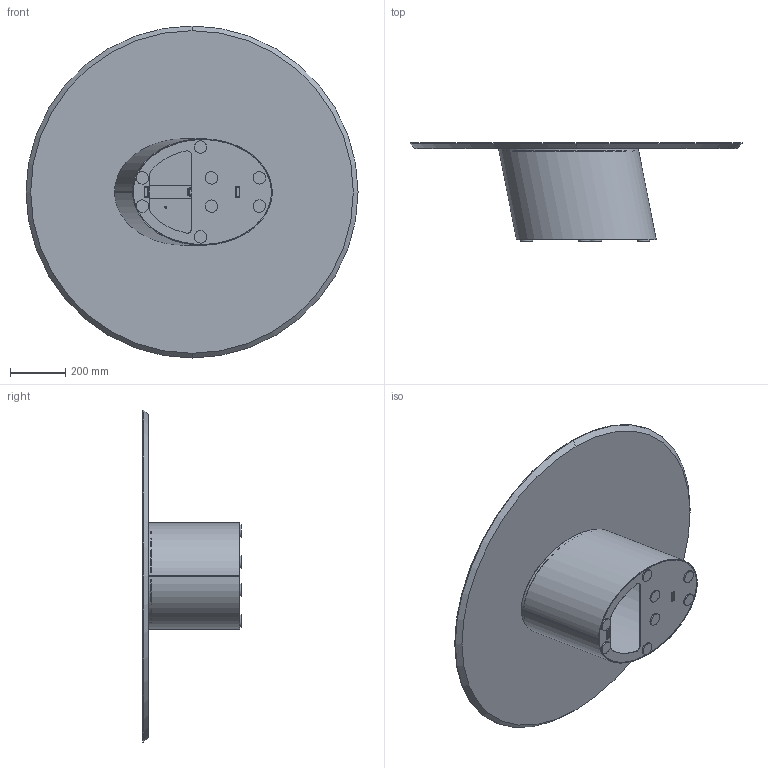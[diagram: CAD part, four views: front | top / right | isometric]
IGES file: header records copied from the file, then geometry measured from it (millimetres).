
Start section: SolidWorks IGES file using analytic representation for surfaces
Global section: file name: Y:\eforma\TECNICO\SOLIDWORKS\E-FORMA\2-TAVOLINI\DORADO LOW\02 parts\D114W.IGS; native system: SolidWorks 2022; preprocessor: SolidWorks 2022; author: eforma.tech; date: 240807.132209; units: millimetre
Bounding box: 1200 x 355 x 1200 mm (x, y, z)
Volume: 24013744 mm3; surface area: 3758224.8 mm2
Topology: 16 solids, 16 shells, 185 faces, 447 edges, 290 vertices
Faces by surface type: revolution 89, plane 82, bspline 14
